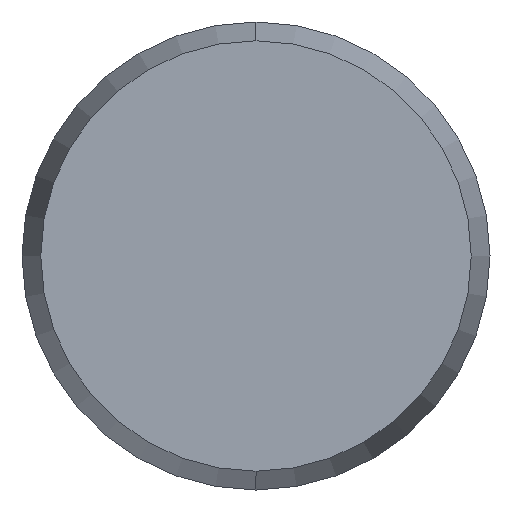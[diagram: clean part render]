
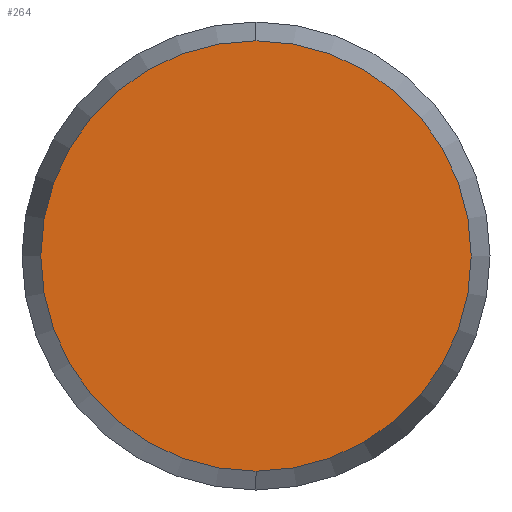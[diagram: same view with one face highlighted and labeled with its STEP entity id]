
A CAD part, left-side view. The second image highlights one B-rep face of the part: STEP entity #264.
In plain terms, the highlighted planar face has unit normal (-1, 0, 0).
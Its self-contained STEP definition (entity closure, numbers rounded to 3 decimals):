
#102 = VERTEX_POINT ( 'NONE', #251 ) ;
#107 = EDGE_CURVE ( 'NONE', #235, #102, #199, .T. ) ;
#127 = DIRECTION ( 'NONE',  ( 0., 0., -1. ) ) ;
#128 = DIRECTION ( 'NONE',  ( 1., 0., 0. ) ) ;
#129 = CARTESIAN_POINT ( 'NONE',  ( -7., 0., 0. ) ) ;
#130 = AXIS2_PLACEMENT_3D ( 'NONE', #129, #128, #127 ) ;
#131 = PLANE ( 'NONE',  #130 ) ;
#132 = FACE_OUTER_BOUND ( 'NONE', #265, .T. ) ;
#152 = CARTESIAN_POINT ( 'NONE',  ( -7., 0., -3.678 ) ) ;
#153 = DIRECTION ( 'NONE',  ( 0., 0., -1. ) ) ;
#154 = DIRECTION ( 'NONE',  ( 1., 0., 0. ) ) ;
#155 = CARTESIAN_POINT ( 'NONE',  ( -7., 0., 0. ) ) ;
#156 = AXIS2_PLACEMENT_3D ( 'NONE', #155, #154, #153 ) ;
#157 = CIRCLE ( 'NONE', #156, 3.678 ) ;
#195 = DIRECTION ( 'NONE',  ( 0., 0., -1. ) ) ;
#196 = DIRECTION ( 'NONE',  ( 1., 0., 0. ) ) ;
#197 = CARTESIAN_POINT ( 'NONE',  ( -7., 0., 0. ) ) ;
#198 = AXIS2_PLACEMENT_3D ( 'NONE', #197, #196, #195 ) ;
#199 = CIRCLE ( 'NONE', #198, 3.678 ) ;
#234 = EDGE_CURVE ( 'NONE', #102, #235, #157, .T. ) ;
#235 = VERTEX_POINT ( 'NONE', #152 ) ;
#251 = CARTESIAN_POINT ( 'NONE',  ( -7., 0., 3.678 ) ) ;
#264 = ADVANCED_FACE ( 'NONE', ( #132 ), #131, .F. ) ;
#265 = EDGE_LOOP ( 'NONE', ( #266, #267 ) ) ;
#266 = ORIENTED_EDGE ( 'NONE', *, *, #234, .F. ) ;
#267 = ORIENTED_EDGE ( 'NONE', *, *, #107, .F. ) ;
